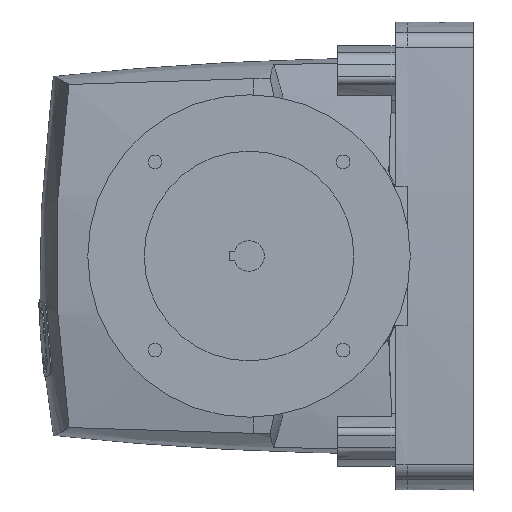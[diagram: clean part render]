
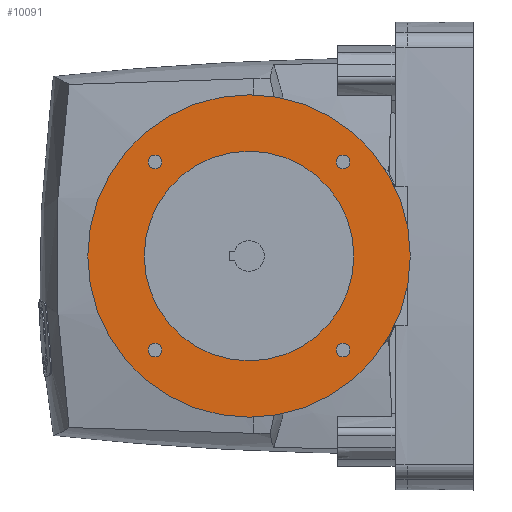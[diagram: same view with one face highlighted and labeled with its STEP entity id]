
A CAD part, left-side view. The second image highlights one B-rep face of the part: STEP entity #10091.
In plain terms, the highlighted planar face has unit normal (-1, 0, 0).
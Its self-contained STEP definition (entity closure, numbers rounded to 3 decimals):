
#95=CARTESIAN_POINT('',(-168.,124.,0.));
#96=DIRECTION('',(1.,0.,0.));
#97=DIRECTION('',(0.,-1.,0.));
#98=AXIS2_PLACEMENT_3D('',#95,#96,#97);
#100=CARTESIAN_POINT('',(-168.,124.,0.));
#101=DIRECTION('',(1.,0.,0.));
#102=DIRECTION('',(0.,1.,0.));
#103=AXIS2_PLACEMENT_3D('',#100,#101,#102);
#105=CARTESIAN_POINT('',(-168.,182.336,58.336));
#106=DIRECTION('',(-1.,0.,0.));
#107=DIRECTION('',(0.,-1.,0.));
#108=AXIS2_PLACEMENT_3D('',#105,#106,#107);
#110=CARTESIAN_POINT('',(-168.,182.336,58.336));
#111=DIRECTION('',(-1.,0.,0.));
#112=DIRECTION('',(0.,1.,0.));
#113=AXIS2_PLACEMENT_3D('',#110,#111,#112);
#115=CARTESIAN_POINT('',(-168.,65.664,58.336));
#116=DIRECTION('',(-1.,0.,0.));
#117=DIRECTION('',(0.,-1.,0.));
#118=AXIS2_PLACEMENT_3D('',#115,#116,#117);
#120=CARTESIAN_POINT('',(-168.,65.664,58.336));
#121=DIRECTION('',(-1.,0.,0.));
#122=DIRECTION('',(0.,1.,0.));
#123=AXIS2_PLACEMENT_3D('',#120,#121,#122);
#125=CARTESIAN_POINT('',(-168.,65.664,-58.336));
#126=DIRECTION('',(-1.,0.,0.));
#127=DIRECTION('',(0.,-1.,0.));
#128=AXIS2_PLACEMENT_3D('',#125,#126,#127);
#130=CARTESIAN_POINT('',(-168.,65.664,-58.336));
#131=DIRECTION('',(-1.,0.,0.));
#132=DIRECTION('',(0.,1.,0.));
#133=AXIS2_PLACEMENT_3D('',#130,#131,#132);
#135=CARTESIAN_POINT('',(-168.,182.336,-58.336));
#136=DIRECTION('',(-1.,0.,0.));
#137=DIRECTION('',(0.,-1.,0.));
#138=AXIS2_PLACEMENT_3D('',#135,#136,#137);
#140=CARTESIAN_POINT('',(-168.,182.336,-58.336));
#141=DIRECTION('',(-1.,0.,0.));
#142=DIRECTION('',(0.,1.,0.));
#143=AXIS2_PLACEMENT_3D('',#140,#141,#142);
#145=CARTESIAN_POINT('',(-168.,124.,0.));
#146=DIRECTION('',(-1.,0.,0.));
#147=DIRECTION('',(0.,-1.,0.));
#148=AXIS2_PLACEMENT_3D('',#145,#146,#147);
#150=CARTESIAN_POINT('',(-168.,124.,0.));
#151=DIRECTION('',(-1.,0.,0.));
#152=DIRECTION('',(0.,1.,0.));
#153=AXIS2_PLACEMENT_3D('',#150,#151,#152);
#9842=CARTESIAN_POINT('',(-168.,224.,0.));
#9843=VERTEX_POINT('',#9842);
#9844=CARTESIAN_POINT('',(-168.,24.,0.));
#9845=VERTEX_POINT('',#9844);
#9846=CARTESIAN_POINT('',(-168.,178.086,58.336));
#9847=CARTESIAN_POINT('',(-168.,186.586,58.336));
#9848=VERTEX_POINT('',#9846);
#9849=VERTEX_POINT('',#9847);
#9850=CARTESIAN_POINT('',(-168.,61.414,58.336));
#9851=CARTESIAN_POINT('',(-168.,69.914,58.336));
#9852=VERTEX_POINT('',#9850);
#9853=VERTEX_POINT('',#9851);
#9854=CARTESIAN_POINT('',(-168.,61.414,-58.336));
#9855=CARTESIAN_POINT('',(-168.,69.914,-58.336));
#9856=VERTEX_POINT('',#9854);
#9857=VERTEX_POINT('',#9855);
#9858=CARTESIAN_POINT('',(-168.,178.086,-58.336));
#9859=CARTESIAN_POINT('',(-168.,186.586,-58.336));
#9860=VERTEX_POINT('',#9858);
#9861=VERTEX_POINT('',#9859);
#9862=CARTESIAN_POINT('',(-168.,59.,0.));
#9863=CARTESIAN_POINT('',(-168.,189.,0.));
#9864=VERTEX_POINT('',#9862);
#9865=VERTEX_POINT('',#9863);
#10052=CARTESIAN_POINT('',(-168.,0.,0.));
#10053=DIRECTION('',(-1.,0.,0.));
#10054=DIRECTION('',(0.,-1.,0.));
#10055=AXIS2_PLACEMENT_3D('',#10052,#10053,#10054);
#10056=PLANE('',#10055);
#10057=ORIENTED_EDGE('',*,*,#10032,.T.);
#10058=ORIENTED_EDGE('',*,*,#10046,.T.);
#10059=EDGE_LOOP('',(#10057,#10058));
#10060=FACE_OUTER_BOUND('',#10059,.F.);
#10062=ORIENTED_EDGE('',*,*,#10061,.T.);
#10064=ORIENTED_EDGE('',*,*,#10063,.T.);
#10065=EDGE_LOOP('',(#10062,#10064));
#10066=FACE_BOUND('',#10065,.F.);
#10068=ORIENTED_EDGE('',*,*,#10067,.T.);
#10070=ORIENTED_EDGE('',*,*,#10069,.T.);
#10071=EDGE_LOOP('',(#10068,#10070));
#10072=FACE_BOUND('',#10071,.F.);
#10074=ORIENTED_EDGE('',*,*,#10073,.T.);
#10076=ORIENTED_EDGE('',*,*,#10075,.T.);
#10077=EDGE_LOOP('',(#10074,#10076));
#10078=FACE_BOUND('',#10077,.F.);
#10080=ORIENTED_EDGE('',*,*,#10079,.T.);
#10082=ORIENTED_EDGE('',*,*,#10081,.T.);
#10083=EDGE_LOOP('',(#10080,#10082));
#10084=FACE_BOUND('',#10083,.F.);
#10086=ORIENTED_EDGE('',*,*,#10085,.T.);
#10088=ORIENTED_EDGE('',*,*,#10087,.T.);
#10089=EDGE_LOOP('',(#10086,#10088));
#10090=FACE_BOUND('',#10089,.F.);
#10091=ADVANCED_FACE('',(#10060,#10066,#10072,#10078,#10084,#10090),#10056,.T.);
#99=CIRCLE('',#98,100.);
#104=CIRCLE('',#103,100.);
#109=CIRCLE('',#108,4.25);
#114=CIRCLE('',#113,4.25);
#119=CIRCLE('',#118,4.25);
#124=CIRCLE('',#123,4.25);
#129=CIRCLE('',#128,4.25);
#134=CIRCLE('',#133,4.25);
#139=CIRCLE('',#138,4.25);
#144=CIRCLE('',#143,4.25);
#149=CIRCLE('',#148,65.);
#154=CIRCLE('',#153,65.);
#10032=EDGE_CURVE('',#9845,#9843,#99,.T.);
#10046=EDGE_CURVE('',#9843,#9845,#104,.T.);
#10061=EDGE_CURVE('',#9848,#9849,#109,.T.);
#10063=EDGE_CURVE('',#9849,#9848,#114,.T.);
#10067=EDGE_CURVE('',#9852,#9853,#119,.T.);
#10069=EDGE_CURVE('',#9853,#9852,#124,.T.);
#10073=EDGE_CURVE('',#9856,#9857,#129,.T.);
#10075=EDGE_CURVE('',#9857,#9856,#134,.T.);
#10079=EDGE_CURVE('',#9860,#9861,#139,.T.);
#10081=EDGE_CURVE('',#9861,#9860,#144,.T.);
#10085=EDGE_CURVE('',#9864,#9865,#149,.T.);
#10087=EDGE_CURVE('',#9865,#9864,#154,.T.);
